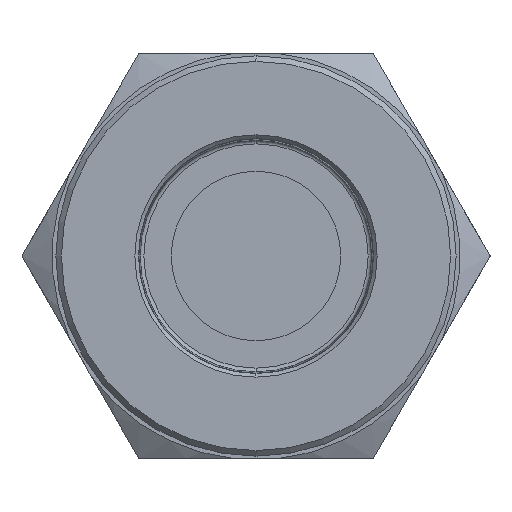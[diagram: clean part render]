
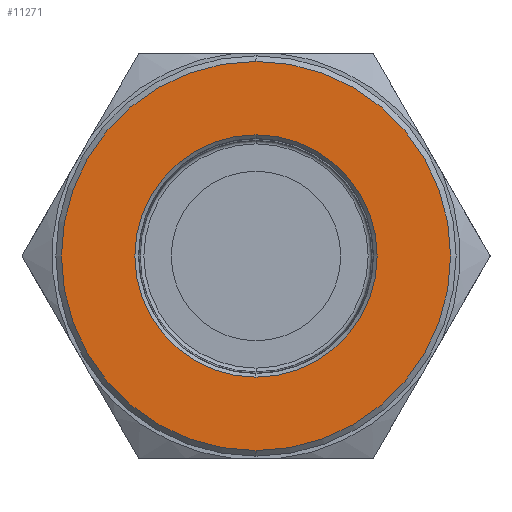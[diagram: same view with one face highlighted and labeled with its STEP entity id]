
A CAD part, left-side view. The second image highlights one B-rep face of the part: STEP entity #11271.
In plain terms, the highlighted planar face has unit normal (-1, 0, 0).
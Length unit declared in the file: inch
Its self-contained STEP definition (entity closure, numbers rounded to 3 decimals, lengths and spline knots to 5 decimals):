
#8989 = EDGE_CURVE ( 'NONE', #9277, #9222, #14879, .T. ) ;
#8991 = EDGE_CURVE ( 'NONE', #9767, #9235, #14881, .T. ) ;
#9222 = VERTEX_POINT ( 'NONE', #14185 ) ;
#9235 = VERTEX_POINT ( 'NONE', #14198 ) ;
#9277 = VERTEX_POINT ( 'NONE', #14240 ) ;
#9767 = VERTEX_POINT ( 'NONE', #14600 ) ;
#10890 = ORIENTED_EDGE ( 'NONE', *, *, #8989, .T. ) ;
#10891 = ORIENTED_EDGE ( 'NONE', *, *, #11168, .T. ) ;
#10892 = ORIENTED_EDGE ( 'NONE', *, *, #11167, .T. ) ;
#10895 = ORIENTED_EDGE ( 'NONE', *, *, #8991, .T. ) ;
#11167 = EDGE_CURVE ( 'NONE', #9235, #9767, #15024, .T. ) ;
#11168 = EDGE_CURVE ( 'NONE', #9222, #9277, #15026, .T. ) ;
#11271 = ADVANCED_FACE ( 'NONE', ( #15953, #15954 ), #15955, .T. ) ;
#12342 = EDGE_LOOP ( 'NONE', ( #10892, #10895 ) ) ;
#13695 = EDGE_LOOP ( 'NONE', ( #10890, #10891 ) ) ;
#13940 = CARTESIAN_POINT ( 'NONE',  ( -0.3855, 0., 0. ) ) ;
#13941 = DIRECTION ( 'NONE',  ( 1., 0., 0. ) ) ;
#13942 = DIRECTION ( 'NONE',  ( 0., 0., 1. ) ) ;
#13946 = CARTESIAN_POINT ( 'NONE',  ( -0.3855, 0., 0. ) ) ;
#13947 = DIRECTION ( 'NONE',  ( -1., 0., 0. ) ) ;
#13948 = DIRECTION ( 'NONE',  ( 0., 0., 1. ) ) ;
#14185 = CARTESIAN_POINT ( 'NONE',  ( -0.3855, 0., -0.2615 ) ) ;
#14198 = CARTESIAN_POINT ( 'NONE',  ( -0.3855, 0., -0.42 ) ) ;
#14240 = CARTESIAN_POINT ( 'NONE',  ( -0.3855, 0., 0.2615 ) ) ;
#14600 = CARTESIAN_POINT ( 'NONE',  ( -0.3855, 0., 0.42 ) ) ;
#14762 = CARTESIAN_POINT ( 'NONE',  ( -0.3855, 0., 0. ) ) ;
#14763 = DIRECTION ( 'NONE',  ( -1., 0., 0. ) ) ;
#14764 = DIRECTION ( 'NONE',  ( 0., 0., 1. ) ) ;
#14765 = CARTESIAN_POINT ( 'NONE',  ( -0.3855, 0., 0. ) ) ;
#14766 = DIRECTION ( 'NONE',  ( 1., 0., 0. ) ) ;
#14767 = DIRECTION ( 'NONE',  ( 0., 0., 1. ) ) ;
#14879 = CIRCLE ( 'NONE', #14882, 0.2615 ) ;
#14881 = CIRCLE ( 'NONE', #14885, 0.42 ) ;
#14882 = AXIS2_PLACEMENT_3D ( 'NONE', #13940, #13941, #13942 ) ;
#14885 = AXIS2_PLACEMENT_3D ( 'NONE', #13946, #13947, #13948 ) ;
#15024 = CIRCLE ( 'NONE', #15027, 0.42 ) ;
#15026 = CIRCLE ( 'NONE', #15029, 0.2615 ) ;
#15027 = AXIS2_PLACEMENT_3D ( 'NONE', #14762, #14763, #14764 ) ;
#15029 = AXIS2_PLACEMENT_3D ( 'NONE', #14765, #14766, #14767 ) ;
#15121 = AXIS2_PLACEMENT_3D ( 'NONE', #15950, #15957, #15958 ) ;
#15950 = CARTESIAN_POINT ( 'NONE',  ( -0.3855, 0.50518, 0. ) ) ;
#15953 = FACE_BOUND ( 'NONE', #13695, .T. ) ;
#15954 = FACE_OUTER_BOUND ( 'NONE', #12342, .T. ) ;
#15955 = PLANE ( 'NONE',  #15121 ) ;
#15957 = DIRECTION ( 'NONE',  ( -1., 0., 0. ) ) ;
#15958 = DIRECTION ( 'NONE',  ( 0., 0., 1. ) ) ;
